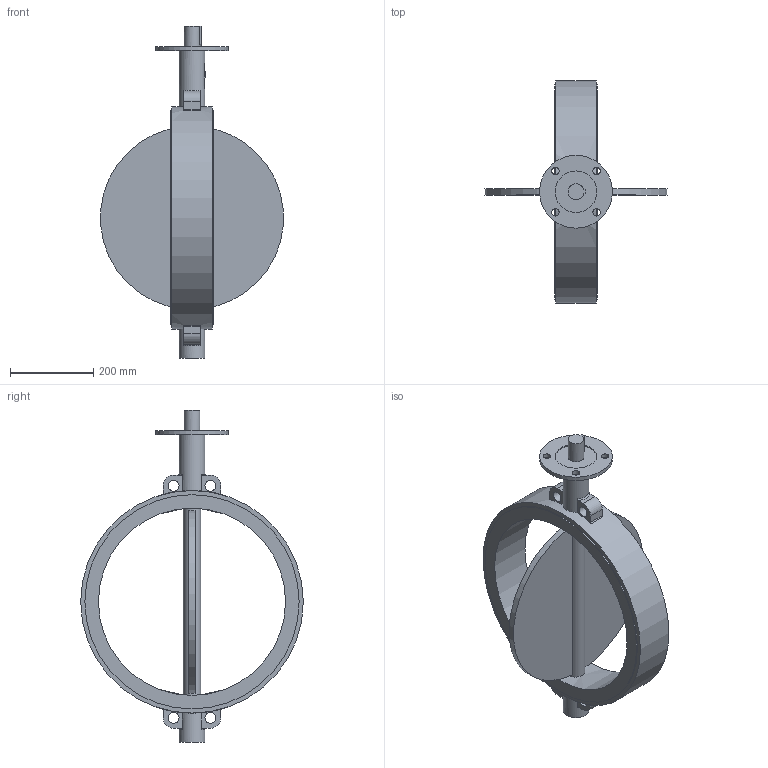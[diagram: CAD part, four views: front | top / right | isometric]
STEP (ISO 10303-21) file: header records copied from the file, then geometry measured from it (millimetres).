
FILE_DESCRIPTION(('STEP AP203'), '1');
FILE_NAME('青蜮铕 017W.YS_DN450_PN10', '', ('UNSPECIFIED'), ('UNSPECIFIED'), 'ASCON STEP Converter 1.6', 'ASCON Math Kernel', '');
FILE_SCHEMA(('CONFIG_CONTROL_DESIGN'));
Length unit declared in the file: millimetre
Bounding box: 438.84 x 535 x 798 mm (x, y, z)
Volume: 10358907.8 mm3; surface area: 899638.5 mm2
Topology: 1 solids, 1 shells, 89 faces, 220 edges, 146 vertices
Faces by surface type: plane 48, cylinder 37, torus 4
Full cylindrical faces by diameter (mm): 18 x4, 26 x4, 38 x1, 42 x1, 62 x2, 100 x1, 175 x1, 450 x1, 515 x2, 535 x1
Entity records: 4699 total; most frequent: CARTESIAN_POINT 1807, DIRECTION 452, ORIENTED_EDGE 404, EDGE_CURVE 202, AXIS2_PLACEMENT_3D 180, VERTEX_POINT 146, EDGE_LOOP 140, FACE_BOUND 107
